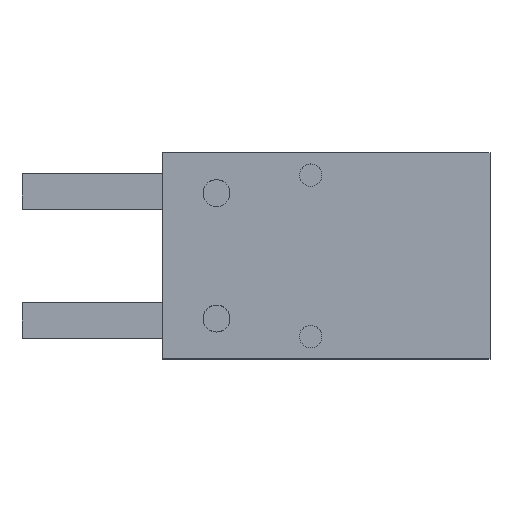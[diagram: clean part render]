
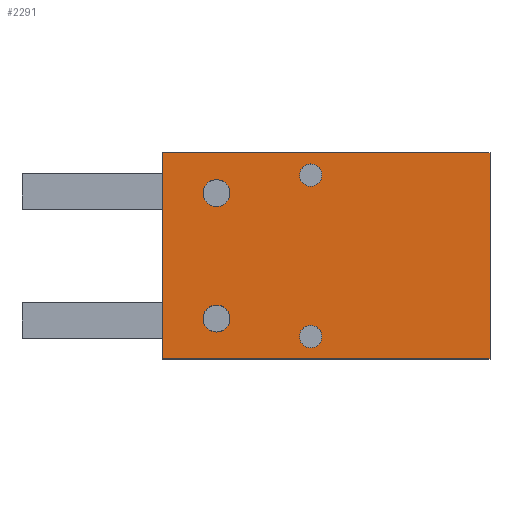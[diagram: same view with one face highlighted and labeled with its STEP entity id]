
A CAD part, top view. The second image highlights one B-rep face of the part: STEP entity #2291.
In plain terms, the highlighted planar face has unit normal (0, 0, 1).
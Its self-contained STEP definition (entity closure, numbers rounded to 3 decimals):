
#4 = FACE_BOUND ( 'NONE', #1879, .T. ) ;
#69 = EDGE_LOOP ( 'NONE', ( #207, #2372 ) ) ;
#111 = CIRCLE ( 'NONE', #1875, 1.5 ) ;
#189 = DIRECTION ( 'NONE',  ( 0., 0., 1. ) ) ;
#206 = CARTESIAN_POINT ( 'NONE',  ( -13.75, 7., 8. ) ) ;
#207 = ORIENTED_EDGE ( 'NONE', *, *, #679, .F. ) ;
#218 = DIRECTION ( 'NONE',  ( 1., 0., 0. ) ) ;
#241 = VERTEX_POINT ( 'NONE', #2932 ) ;
#256 = ORIENTED_EDGE ( 'NONE', *, *, #2358, .T. ) ;
#363 = EDGE_LOOP ( 'NONE', ( #520, #1439, #256, #2289 ) ) ;
#381 = CARTESIAN_POINT ( 'NONE',  ( -1.75, -9., 8. ) ) ;
#433 = DIRECTION ( 'NONE',  ( 0., 0., 1. ) ) ;
#435 = DIRECTION ( 'NONE',  ( 1., 0., 0. ) ) ;
#520 = ORIENTED_EDGE ( 'NONE', *, *, #995, .F. ) ;
#521 = CARTESIAN_POINT ( 'NONE',  ( 18.25, 11.5, 8. ) ) ;
#548 = CIRCLE ( 'NONE', #2840, 1.5 ) ;
#576 = CIRCLE ( 'NONE', #2676, 1.25 ) ;
#587 = ORIENTED_EDGE ( 'NONE', *, *, #2878, .F. ) ;
#599 = DIRECTION ( 'NONE',  ( 1., 0., 0. ) ) ;
#620 = DIRECTION ( 'NONE',  ( 1., 0., 0. ) ) ;
#642 = CIRCLE ( 'NONE', #1238, 1.25 ) ;
#649 = CARTESIAN_POINT ( 'NONE',  ( -18.25, -11.5, 8. ) ) ;
#679 = EDGE_CURVE ( 'NONE', #241, #1034, #1570, .T. ) ;
#707 = AXIS2_PLACEMENT_3D ( 'NONE', #2679, #938, #2692 ) ;
#724 = DIRECTION ( 'NONE',  ( 0., 0., 1. ) ) ;
#731 = FACE_BOUND ( 'NONE', #2962, .T. ) ;
#792 = VECTOR ( 'NONE', #1001, 1000. ) ;
#809 = LINE ( 'NONE', #1130, #2324 ) ;
#895 = VERTEX_POINT ( 'NONE', #1717 ) ;
#902 = EDGE_CURVE ( 'NONE', #2890, #3130, #2033, .T. ) ;
#938 = DIRECTION ( 'NONE',  ( 0., 0., 1. ) ) ;
#955 = CIRCLE ( 'NONE', #2863, 1.5 ) ;
#966 = ORIENTED_EDGE ( 'NONE', *, *, #2295, .F. ) ;
#995 = EDGE_CURVE ( 'NONE', #1571, #2246, #1221, .T. ) ;
#1001 = DIRECTION ( 'NONE',  ( 0., 1., 0. ) ) ;
#1034 = VERTEX_POINT ( 'NONE', #1234 ) ;
#1055 = VECTOR ( 'NONE', #1149, 1000. ) ;
#1059 = EDGE_CURVE ( 'NONE', #895, #2795, #1815, .T. ) ;
#1090 = CARTESIAN_POINT ( 'NONE',  ( -10.75, -7., 8. ) ) ;
#1101 = VERTEX_POINT ( 'NONE', #3170 ) ;
#1130 = CARTESIAN_POINT ( 'NONE',  ( 18.25, -11.5, 8. ) ) ;
#1149 = DIRECTION ( 'NONE',  ( 0., 1., 0. ) ) ;
#1221 = LINE ( 'NONE', #2159, #792 ) ;
#1234 = CARTESIAN_POINT ( 'NONE',  ( -3., -9., 8. ) ) ;
#1238 = AXIS2_PLACEMENT_3D ( 'NONE', #1922, #189, #1676 ) ;
#1261 = ORIENTED_EDGE ( 'NONE', *, *, #1829, .F. ) ;
#1406 = AXIS2_PLACEMENT_3D ( 'NONE', #2657, #433, #599 ) ;
#1409 = DIRECTION ( 'NONE',  ( -1., 0., 0. ) ) ;
#1437 = DIRECTION ( 'NONE',  ( 0., 0., 1. ) ) ;
#1439 = ORIENTED_EDGE ( 'NONE', *, *, #2707, .F. ) ;
#1446 = EDGE_LOOP ( 'NONE', ( #1797, #966 ) ) ;
#1456 = DIRECTION ( 'NONE',  ( 0., 0., 1. ) ) ;
#1570 = CIRCLE ( 'NONE', #3147, 1.25 ) ;
#1571 = VERTEX_POINT ( 'NONE', #649 ) ;
#1638 = VERTEX_POINT ( 'NONE', #1090 ) ;
#1666 = CARTESIAN_POINT ( 'NONE',  ( -12.25, 7., 8. ) ) ;
#1670 = FACE_BOUND ( 'NONE', #69, .T. ) ;
#1676 = DIRECTION ( 'NONE',  ( 1., 0., 0. ) ) ;
#1698 = VERTEX_POINT ( 'NONE', #521 ) ;
#1717 = CARTESIAN_POINT ( 'NONE',  ( -0.5, 9., 8. ) ) ;
#1797 = ORIENTED_EDGE ( 'NONE', *, *, #1059, .F. ) ;
#1808 = CARTESIAN_POINT ( 'NONE',  ( -1.75, -9., 8. ) ) ;
#1815 = CIRCLE ( 'NONE', #707, 1.25 ) ;
#1829 = EDGE_CURVE ( 'NONE', #2382, #1638, #111, .T. ) ;
#1844 = CARTESIAN_POINT ( 'NONE',  ( -12.25, -7., 8. ) ) ;
#1875 = AXIS2_PLACEMENT_3D ( 'NONE', #3175, #1456, #2939 ) ;
#1876 = EDGE_CURVE ( 'NONE', #3130, #2890, #955, .T. ) ;
#1879 = EDGE_LOOP ( 'NONE', ( #2466, #2056 ) ) ;
#1922 = CARTESIAN_POINT ( 'NONE',  ( -1.75, 9., 8. ) ) ;
#2033 = CIRCLE ( 'NONE', #2933, 1.5 ) ;
#2056 = ORIENTED_EDGE ( 'NONE', *, *, #902, .F. ) ;
#2079 = CARTESIAN_POINT ( 'NONE',  ( -10.75, 7., 8. ) ) ;
#2106 = DIRECTION ( 'NONE',  ( 0., 0., 1. ) ) ;
#2154 = DIRECTION ( 'NONE',  ( 0., 0., 1. ) ) ;
#2155 = CARTESIAN_POINT ( 'NONE',  ( 18.25, 11.5, 8. ) ) ;
#2159 = CARTESIAN_POINT ( 'NONE',  ( -18.25, 11.5, 8. ) ) ;
#2183 = PLANE ( 'NONE',  #1406 ) ;
#2193 = FACE_OUTER_BOUND ( 'NONE', #363, .T. ) ;
#2209 = CARTESIAN_POINT ( 'NONE',  ( -12.25, 7., 8. ) ) ;
#2242 = CARTESIAN_POINT ( 'NONE',  ( -3., 9., 8. ) ) ;
#2246 = VERTEX_POINT ( 'NONE', #2781 ) ;
#2289 = ORIENTED_EDGE ( 'NONE', *, *, #2925, .T. ) ;
#2291 = ADVANCED_FACE ( 'NONE', ( #4, #731, #2622, #1670, #2193 ), #2183, .T. ) ;
#2295 = EDGE_CURVE ( 'NONE', #2795, #895, #642, .T. ) ;
#2317 = VECTOR ( 'NONE', #2387, 1000. ) ;
#2324 = VECTOR ( 'NONE', #1409, 1000. ) ;
#2358 = EDGE_CURVE ( 'NONE', #1101, #1698, #3158, .T. ) ;
#2372 = ORIENTED_EDGE ( 'NONE', *, *, #2770, .F. ) ;
#2382 = VERTEX_POINT ( 'NONE', #3113 ) ;
#2387 = DIRECTION ( 'NONE',  ( -1., 0., 0. ) ) ;
#2454 = DIRECTION ( 'NONE',  ( 1., 0., 0. ) ) ;
#2466 = ORIENTED_EDGE ( 'NONE', *, *, #1876, .F. ) ;
#2622 = FACE_BOUND ( 'NONE', #1446, .T. ) ;
#2657 = CARTESIAN_POINT ( 'NONE',  ( 18.25, 11.5, 8. ) ) ;
#2676 = AXIS2_PLACEMENT_3D ( 'NONE', #1808, #2154, #218 ) ;
#2679 = CARTESIAN_POINT ( 'NONE',  ( -1.75, 9., 8. ) ) ;
#2692 = DIRECTION ( 'NONE',  ( 1., 0., 0. ) ) ;
#2707 = EDGE_CURVE ( 'NONE', #1101, #1571, #809, .T. ) ;
#2770 = EDGE_CURVE ( 'NONE', #1034, #241, #576, .T. ) ;
#2781 = CARTESIAN_POINT ( 'NONE',  ( -18.25, 11.5, 8. ) ) ;
#2795 = VERTEX_POINT ( 'NONE', #2242 ) ;
#2840 = AXIS2_PLACEMENT_3D ( 'NONE', #1844, #1437, #2921 ) ;
#2863 = AXIS2_PLACEMENT_3D ( 'NONE', #1666, #3134, #435 ) ;
#2878 = EDGE_CURVE ( 'NONE', #1638, #2382, #548, .T. ) ;
#2887 = CARTESIAN_POINT ( 'NONE',  ( 18.25, 11.5, 8. ) ) ;
#2890 = VERTEX_POINT ( 'NONE', #206 ) ;
#2921 = DIRECTION ( 'NONE',  ( 1., 0., 0. ) ) ;
#2925 = EDGE_CURVE ( 'NONE', #1698, #2246, #3098, .T. ) ;
#2932 = CARTESIAN_POINT ( 'NONE',  ( -0.5, -9., 8. ) ) ;
#2933 = AXIS2_PLACEMENT_3D ( 'NONE', #2209, #724, #2454 ) ;
#2939 = DIRECTION ( 'NONE',  ( 1., 0., 0. ) ) ;
#2962 = EDGE_LOOP ( 'NONE', ( #587, #1261 ) ) ;
#3098 = LINE ( 'NONE', #2887, #2317 ) ;
#3113 = CARTESIAN_POINT ( 'NONE',  ( -13.75, -7., 8. ) ) ;
#3130 = VERTEX_POINT ( 'NONE', #2079 ) ;
#3134 = DIRECTION ( 'NONE',  ( 0., 0., 1. ) ) ;
#3147 = AXIS2_PLACEMENT_3D ( 'NONE', #381, #2106, #620 ) ;
#3158 = LINE ( 'NONE', #2155, #1055 ) ;
#3170 = CARTESIAN_POINT ( 'NONE',  ( 18.25, -11.5, 8. ) ) ;
#3175 = CARTESIAN_POINT ( 'NONE',  ( -12.25, -7., 8. ) ) ;
